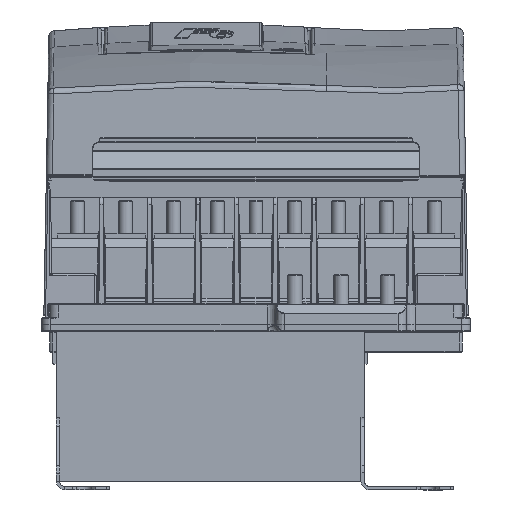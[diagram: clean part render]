
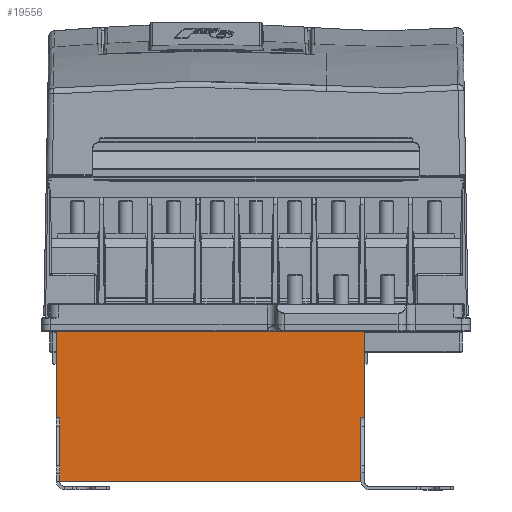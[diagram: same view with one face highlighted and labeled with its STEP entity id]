
A CAD part, front view. The second image highlights one B-rep face of the part: STEP entity #19556.
In plain terms, the highlighted planar face has unit normal (0, -1, 0).
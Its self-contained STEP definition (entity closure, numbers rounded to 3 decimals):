
#2509 = CARTESIAN_POINT ( 'NONE',  ( -87.5, -63., -22. ) ) ;
#3135 = ORIENTED_EDGE ( 'NONE', *, *, #35085, .T. ) ;
#4240 = LINE ( 'NONE', #25728, #49077 ) ;
#4763 = EDGE_CURVE ( 'NONE', #8331, #77737, #5894, .T. ) ;
#4984 = CARTESIAN_POINT ( 'NONE',  ( -89.5, -63., -59. ) ) ;
#5894 = LINE ( 'NONE', #93879, #6319 ) ;
#6319 = VECTOR ( 'NONE', #36926, 1000. ) ;
#8331 = VERTEX_POINT ( 'NONE', #78788 ) ;
#9252 = DIRECTION ( 'NONE',  ( 0., 0., 1. ) ) ;
#11210 = DIRECTION ( 'NONE',  ( 0., 0., -1. ) ) ;
#12128 = CARTESIAN_POINT ( 'NONE',  ( -89.5, -63., -22. ) ) ;
#16056 = CARTESIAN_POINT ( 'NONE',  ( -87.5, -63., -36. ) ) ;
#16126 = ORIENTED_EDGE ( 'NONE', *, *, #25250, .T. ) ;
#18055 = VERTEX_POINT ( 'NONE', #58166 ) ;
#18206 = ORIENTED_EDGE ( 'NONE', *, *, #31907, .F. ) ;
#19556 = ADVANCED_FACE ( 'NONE', ( #55145 ), #61364, .F. ) ;
#20226 = DIRECTION ( 'NONE',  ( 0., 0., 1. ) ) ;
#22381 = VERTEX_POINT ( 'NONE', #12128 ) ;
#23046 = VERTEX_POINT ( 'NONE', #85994 ) ;
#25250 = EDGE_CURVE ( 'NONE', #87008, #26367, #91915, .T. ) ;
#25728 = CARTESIAN_POINT ( 'NONE',  ( 87.5, -63., 0. ) ) ;
#26367 = VERTEX_POINT ( 'NONE', #53186 ) ;
#27379 = LINE ( 'NONE', #78584, #82861 ) ;
#31907 = EDGE_CURVE ( 'NONE', #18055, #23046, #92645, .T. ) ;
#32194 = CARTESIAN_POINT ( 'NONE',  ( 0., -63., 0. ) ) ;
#35085 = EDGE_CURVE ( 'NONE', #76829, #87008, #38502, .T. ) ;
#36408 = VECTOR ( 'NONE', #79904, 1000. ) ;
#36668 = VECTOR ( 'NONE', #90766, 1000. ) ;
#36926 = DIRECTION ( 'NONE',  ( -1., 0., 0. ) ) ;
#37951 = EDGE_CURVE ( 'NONE', #77737, #22381, #76744, .T. ) ;
#38502 = LINE ( 'NONE', #16056, #66158 ) ;
#40307 = DIRECTION ( 'NONE',  ( 0., 1., 0. ) ) ;
#43553 = CARTESIAN_POINT ( 'NONE',  ( -89.5, -63., -59. ) ) ;
#43961 = ORIENTED_EDGE ( 'NONE', *, *, #84706, .T. ) ;
#44194 = ORIENTED_EDGE ( 'NONE', *, *, #37951, .T. ) ;
#47276 = DIRECTION ( 'NONE',  ( 0., 0., 1. ) ) ;
#49077 = VECTOR ( 'NONE', #47276, 1000. ) ;
#53186 = CARTESIAN_POINT ( 'NONE',  ( 87.5, -63., -59. ) ) ;
#55145 = FACE_OUTER_BOUND ( 'NONE', #60212, .T. ) ;
#58166 = CARTESIAN_POINT ( 'NONE',  ( 89.5, -63., -22. ) ) ;
#58504 = DIRECTION ( 'NONE',  ( 1., 0., 0. ) ) ;
#59445 = LINE ( 'NONE', #88635, #62142 ) ;
#60212 = EDGE_LOOP ( 'NONE', ( #16126, #43961, #18206, #88078, #68777, #44194, #73992, #3135 ) ) ;
#61364 = PLANE ( 'NONE',  #81634 ) ;
#62142 = VECTOR ( 'NONE', #58504, 1000. ) ;
#64788 = CARTESIAN_POINT ( 'NONE',  ( -87.5, -63., -59. ) ) ;
#66158 = VECTOR ( 'NONE', #67675, 1000. ) ;
#67675 = DIRECTION ( 'NONE',  ( 0., 0., -1. ) ) ;
#68777 = ORIENTED_EDGE ( 'NONE', *, *, #4763, .T. ) ;
#73992 = ORIENTED_EDGE ( 'NONE', *, *, #91889, .T. ) ;
#76166 = CARTESIAN_POINT ( 'NONE',  ( -89.5, -63., 28. ) ) ;
#76744 = LINE ( 'NONE', #4984, #92455 ) ;
#76829 = VERTEX_POINT ( 'NONE', #2509 ) ;
#77737 = VERTEX_POINT ( 'NONE', #76166 ) ;
#78584 = CARTESIAN_POINT ( 'NONE',  ( 89.5, -63., -59. ) ) ;
#78788 = CARTESIAN_POINT ( 'NONE',  ( 89.5, -63., 28. ) ) ;
#79904 = DIRECTION ( 'NONE',  ( 1., 0., 0. ) ) ;
#81634 = AXIS2_PLACEMENT_3D ( 'NONE', #32194, #40307, #9252 ) ;
#82861 = VECTOR ( 'NONE', #20226, 1000. ) ;
#83586 = CARTESIAN_POINT ( 'NONE',  ( 0., -63., -22. ) ) ;
#84706 = EDGE_CURVE ( 'NONE', #26367, #23046, #4240, .T. ) ;
#85994 = CARTESIAN_POINT ( 'NONE',  ( 87.5, -63., -22. ) ) ;
#87008 = VERTEX_POINT ( 'NONE', #64788 ) ;
#88078 = ORIENTED_EDGE ( 'NONE', *, *, #88099, .T. ) ;
#88099 = EDGE_CURVE ( 'NONE', #18055, #8331, #27379, .T. ) ;
#88635 = CARTESIAN_POINT ( 'NONE',  ( -89.5, -63., -22. ) ) ;
#90766 = DIRECTION ( 'NONE',  ( -1., 0., 0. ) ) ;
#91889 = EDGE_CURVE ( 'NONE', #22381, #76829, #59445, .T. ) ;
#91915 = LINE ( 'NONE', #43553, #36408 ) ;
#92455 = VECTOR ( 'NONE', #11210, 1000. ) ;
#92645 = LINE ( 'NONE', #83586, #36668 ) ;
#93879 = CARTESIAN_POINT ( 'NONE',  ( -89.5, -63., 28. ) ) ;
